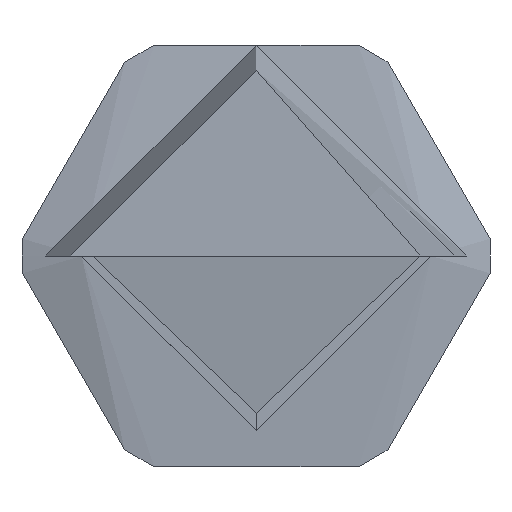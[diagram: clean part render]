
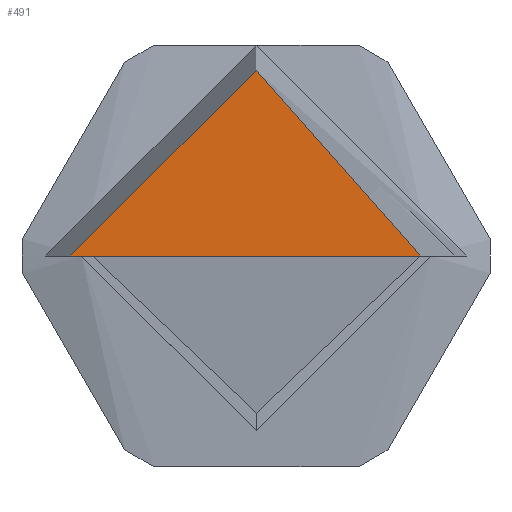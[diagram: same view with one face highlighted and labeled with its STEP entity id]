
A CAD part, left-side view. The second image highlights one B-rep face of the part: STEP entity #491.
In plain terms, the highlighted free-form (B-spline) face has degree [1, 1] with [2, 2] control points.
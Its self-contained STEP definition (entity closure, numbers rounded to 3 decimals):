
#491 = ADVANCED_FACE('',(#492,#514),#536,.T.);
#492 = FACE_BOUND('',#493,.T.);
#493 = EDGE_LOOP('',(#494,#504));
#494 = ORIENTED_EDGE('',*,*,#495,.F.);
#495 = EDGE_CURVE('',#496,#498,#500,.T.);
#496 = VERTEX_POINT('',#497);
#497 = CARTESIAN_POINT('',(0.,15.85,0.));
#498 = VERTEX_POINT('',#499);
#499 = CARTESIAN_POINT('',(0.,0.,15.85));
#500 = ( BOUNDED_CURVE() B_SPLINE_CURVE(2,(#501,#502,#503),
.UNSPECIFIED.,.F.,.F.) B_SPLINE_CURVE_WITH_KNOTS((3,3),(0.,
1.571),.PIECEWISE_BEZIER_KNOTS.) CURVE() 
GEOMETRIC_REPRESENTATION_ITEM() RATIONAL_B_SPLINE_CURVE((1.,
0.707,1.)) REPRESENTATION_ITEM('') );
#501 = CARTESIAN_POINT('',(0.,15.85,0.));
#502 = CARTESIAN_POINT('',(0.,15.85,15.85));
#503 = CARTESIAN_POINT('',(0.,0.,15.85));
#504 = ORIENTED_EDGE('',*,*,#505,.F.);
#505 = EDGE_CURVE('',#498,#496,#506,.T.);
#506 = ( BOUNDED_CURVE() B_SPLINE_CURVE(2,(#507,#508,#509,#510,#511,#512
,#513),.UNSPECIFIED.,.F.,.F.) B_SPLINE_CURVE_WITH_KNOTS((3,2,2,3),(
    1.571,3.142,4.712,6.283),
.UNSPECIFIED.) CURVE() GEOMETRIC_REPRESENTATION_ITEM() 
RATIONAL_B_SPLINE_CURVE((1.,0.707,1.,0.707,1.,
0.707,1.)) REPRESENTATION_ITEM('') );
#507 = CARTESIAN_POINT('',(0.,0.,15.85));
#508 = CARTESIAN_POINT('',(0.,-15.85,15.85));
#509 = CARTESIAN_POINT('',(0.,-15.85,0.));
#510 = CARTESIAN_POINT('',(0.,-15.85,-15.85));
#511 = CARTESIAN_POINT('',(0.,0.,-15.85));
#512 = CARTESIAN_POINT('',(0.,15.85,-15.85));
#513 = CARTESIAN_POINT('',(0.,15.85,0.));
#514 = FACE_BOUND('',#515,.T.);
#515 = EDGE_LOOP('',(#516,#528));
#516 = ORIENTED_EDGE('',*,*,#517,.T.);
#517 = EDGE_CURVE('',#518,#520,#522,.T.);
#518 = VERTEX_POINT('',#519);
#519 = CARTESIAN_POINT('',(0.,14.,0.));
#520 = VERTEX_POINT('',#521);
#521 = CARTESIAN_POINT('',(0.,-14.,0.));
#522 = ( BOUNDED_CURVE() B_SPLINE_CURVE(2,(#523,#524,#525,#526,#527),
.UNSPECIFIED.,.F.,.F.) B_SPLINE_CURVE_WITH_KNOTS((3,2,3),(0.,
1.571,3.142),.UNSPECIFIED.) CURVE() 
GEOMETRIC_REPRESENTATION_ITEM() RATIONAL_B_SPLINE_CURVE((1.,
0.707,1.,0.707,1.)) REPRESENTATION_ITEM('') );
#523 = CARTESIAN_POINT('',(0.,14.,0.));
#524 = CARTESIAN_POINT('',(0.,14.,14.));
#525 = CARTESIAN_POINT('',(0.,0.,14.));
#526 = CARTESIAN_POINT('',(0.,-14.,14.));
#527 = CARTESIAN_POINT('',(0.,-14.,0.));
#528 = ORIENTED_EDGE('',*,*,#529,.T.);
#529 = EDGE_CURVE('',#520,#518,#530,.T.);
#530 = ( BOUNDED_CURVE() B_SPLINE_CURVE(2,(#531,#532,#533,#534,#535),
.UNSPECIFIED.,.F.,.F.) B_SPLINE_CURVE_WITH_KNOTS((3,2,3),(3.142,
4.712,6.283),.PIECEWISE_BEZIER_KNOTS.) CURVE() 
GEOMETRIC_REPRESENTATION_ITEM() RATIONAL_B_SPLINE_CURVE((1.,
0.707,1.,0.707,1.)) REPRESENTATION_ITEM('') );
#531 = CARTESIAN_POINT('',(0.,-14.,0.));
#532 = CARTESIAN_POINT('',(0.,-14.,-14.));
#533 = CARTESIAN_POINT('',(0.,0.,-14.));
#534 = CARTESIAN_POINT('',(0.,14.,-14.));
#535 = CARTESIAN_POINT('',(0.,14.,0.));
#536 = B_SPLINE_SURFACE_WITH_KNOTS('',1,1,(
    (#537,#538)
    ,(#539,#540
    )),.UNSPECIFIED.,.F.,.F.,.F.,(2,2),(2,2),(-1.586,1.586),(-3.079,
    0.094),.PIECEWISE_BEZIER_KNOTS.);
#537 = CARTESIAN_POINT('',(0.,-15.86,-15.86));
#538 = CARTESIAN_POINT('',(0.,15.86,-15.86));
#539 = CARTESIAN_POINT('',(0.,-15.86,15.86));
#540 = CARTESIAN_POINT('',(0.,15.86,15.86));
